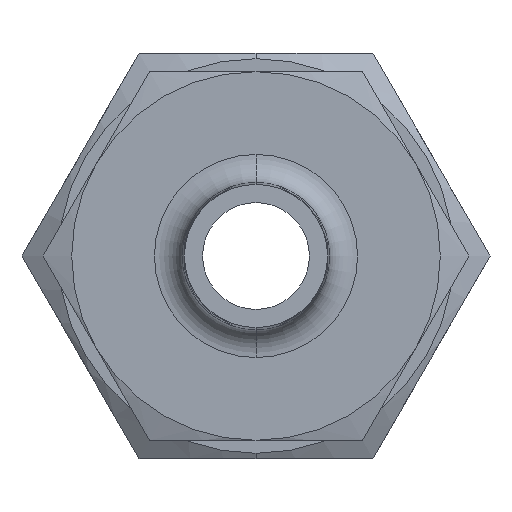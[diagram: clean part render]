
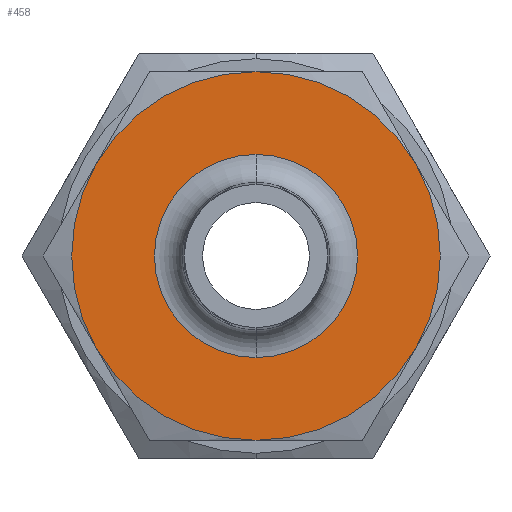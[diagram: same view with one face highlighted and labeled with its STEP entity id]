
A CAD part, left-side view. The second image highlights one B-rep face of the part: STEP entity #458.
In plain terms, the highlighted planar face has unit normal (-1, 0, 0).
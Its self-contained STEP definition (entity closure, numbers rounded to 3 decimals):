
#38 = EDGE_CURVE ( 'NONE', #39, #40, #1741, .T. ) ;
#39 = VERTEX_POINT ( 'NONE', #1732 ) ;
#40 = VERTEX_POINT ( 'NONE', #1731 ) ;
#98 = VERTEX_POINT ( 'NONE', #718 ) ;
#104 = VERTEX_POINT ( 'NONE', #584 ) ;
#309 = ORIENTED_EDGE ( 'NONE', *, *, #310, .F. ) ;
#310 = EDGE_CURVE ( 'NONE', #509, #370, #1030, .T. ) ;
#318 = EDGE_LOOP ( 'NONE', ( #459, #461 ) ) ;
#333 = VERTEX_POINT ( 'NONE', #1049 ) ;
#344 = EDGE_CURVE ( 'NONE', #363, #333, #1154, .T. ) ;
#345 = ORIENTED_EDGE ( 'NONE', *, *, #346, .F. ) ;
#346 = EDGE_CURVE ( 'NONE', #98, #363, #1149, .T. ) ;
#347 = ORIENTED_EDGE ( 'NONE', *, *, #348, .T. ) ;
#348 = EDGE_CURVE ( 'NONE', #98, #370, #1144, .T. ) ;
#363 = VERTEX_POINT ( 'NONE', #1080 ) ;
#370 = VERTEX_POINT ( 'NONE', #1164 ) ;
#458 = ADVANCED_FACE ( 'NONE', ( #1404, #1403 ), #1396, .F. ) ;
#459 = ORIENTED_EDGE ( 'NONE', *, *, #460, .T. ) ;
#460 = EDGE_CURVE ( 'NONE', #40, #39, #1391, .T. ) ;
#461 = ORIENTED_EDGE ( 'NONE', *, *, #38, .T. ) ;
#462 = EDGE_LOOP ( 'NONE', ( #463, #465, #467, #345, #347, #309 ) ) ;
#463 = ORIENTED_EDGE ( 'NONE', *, *, #464, .F. ) ;
#464 = EDGE_CURVE ( 'NONE', #104, #509, #1227, .T. ) ;
#465 = ORIENTED_EDGE ( 'NONE', *, *, #466, .F. ) ;
#466 = EDGE_CURVE ( 'NONE', #333, #104, #1222, .T. ) ;
#467 = ORIENTED_EDGE ( 'NONE', *, *, #344, .F. ) ;
#509 = VERTEX_POINT ( 'NONE', #1596 ) ;
#584 = CARTESIAN_POINT ( 'NONE',  ( 0., 0., -7.94 ) ) ;
#718 = CARTESIAN_POINT ( 'NONE',  ( 0., 0., 7.94 ) ) ;
#1015 = DIRECTION ( 'NONE',  ( 0., 0., -1. ) ) ;
#1016 = DIRECTION ( 'NONE',  ( 1., 0., 0. ) ) ;
#1017 = AXIS2_PLACEMENT_3D ( 'NONE', #1076, #1016, #1015 ) ;
#1030 = CIRCLE ( 'NONE', #1017, 7.94 ) ;
#1049 = CARTESIAN_POINT ( 'NONE',  ( 0., -6.876, -3.97 ) ) ;
#1076 = CARTESIAN_POINT ( 'NONE',  ( 0., 0., 0. ) ) ;
#1080 = CARTESIAN_POINT ( 'NONE',  ( 0., -6.876, 3.97 ) ) ;
#1140 = DIRECTION ( 'NONE',  ( 0., 0., 1. ) ) ;
#1141 = DIRECTION ( 'NONE',  ( -1., 0., 0. ) ) ;
#1142 = CARTESIAN_POINT ( 'NONE',  ( 0., 0., 0. ) ) ;
#1143 = AXIS2_PLACEMENT_3D ( 'NONE', #1142, #1141, #1140 ) ;
#1144 = CIRCLE ( 'NONE', #1143, 7.94 ) ;
#1145 = DIRECTION ( 'NONE',  ( 0., 0., -1. ) ) ;
#1146 = DIRECTION ( 'NONE',  ( 1., 0., 0. ) ) ;
#1147 = CARTESIAN_POINT ( 'NONE',  ( 0., 0., 0. ) ) ;
#1148 = AXIS2_PLACEMENT_3D ( 'NONE', #1147, #1146, #1145 ) ;
#1149 = CIRCLE ( 'NONE', #1148, 7.94 ) ;
#1150 = DIRECTION ( 'NONE',  ( 0., 0., -1. ) ) ;
#1151 = DIRECTION ( 'NONE',  ( 1., 0., 0. ) ) ;
#1152 = CARTESIAN_POINT ( 'NONE',  ( 0., 0., 0. ) ) ;
#1153 = AXIS2_PLACEMENT_3D ( 'NONE', #1152, #1151, #1150 ) ;
#1154 = CIRCLE ( 'NONE', #1153, 7.94 ) ;
#1164 = CARTESIAN_POINT ( 'NONE',  ( 0., 6.876, 3.97 ) ) ;
#1218 = DIRECTION ( 'NONE',  ( 0., 0., -1. ) ) ;
#1219 = DIRECTION ( 'NONE',  ( 1., 0., 0. ) ) ;
#1220 = CARTESIAN_POINT ( 'NONE',  ( 0., 0., 0. ) ) ;
#1221 = AXIS2_PLACEMENT_3D ( 'NONE', #1220, #1219, #1218 ) ;
#1222 = CIRCLE ( 'NONE', #1221, 7.94 ) ;
#1223 = DIRECTION ( 'NONE',  ( 0., 0., -1. ) ) ;
#1224 = DIRECTION ( 'NONE',  ( 1., 0., 0. ) ) ;
#1225 = CARTESIAN_POINT ( 'NONE',  ( 0., 0., 0. ) ) ;
#1226 = AXIS2_PLACEMENT_3D ( 'NONE', #1225, #1224, #1223 ) ;
#1227 = CIRCLE ( 'NONE', #1226, 7.94 ) ;
#1388 = DIRECTION ( 'NONE',  ( 0., 0., -1. ) ) ;
#1389 = DIRECTION ( 'NONE',  ( 1., 0., 0. ) ) ;
#1390 = AXIS2_PLACEMENT_3D ( 'NONE', #1397, #1389, #1388 ) ;
#1391 = CIRCLE ( 'NONE', #1390, 4.375 ) ;
#1392 = DIRECTION ( 'NONE',  ( 0., 0., -1. ) ) ;
#1393 = DIRECTION ( 'NONE',  ( 1., 0., 0. ) ) ;
#1394 = CARTESIAN_POINT ( 'NONE',  ( 0., 9.168, 0. ) ) ;
#1395 = AXIS2_PLACEMENT_3D ( 'NONE', #1394, #1393, #1392 ) ;
#1396 = PLANE ( 'NONE',  #1395 ) ;
#1397 = CARTESIAN_POINT ( 'NONE',  ( 0., 0., 0. ) ) ;
#1403 = FACE_OUTER_BOUND ( 'NONE', #462, .T. ) ;
#1404 = FACE_BOUND ( 'NONE', #318, .T. ) ;
#1596 = CARTESIAN_POINT ( 'NONE',  ( 0., 6.876, -3.97 ) ) ;
#1731 = CARTESIAN_POINT ( 'NONE',  ( 0., 0., -4.375 ) ) ;
#1732 = CARTESIAN_POINT ( 'NONE',  ( 0., 0., 4.375 ) ) ;
#1733 = DIRECTION ( 'NONE',  ( 0., 0., -1. ) ) ;
#1734 = DIRECTION ( 'NONE',  ( 1., 0., 0. ) ) ;
#1735 = CARTESIAN_POINT ( 'NONE',  ( 0., 0., 0. ) ) ;
#1736 = AXIS2_PLACEMENT_3D ( 'NONE', #1735, #1734, #1733 ) ;
#1741 = CIRCLE ( 'NONE', #1736, 4.375 ) ;
